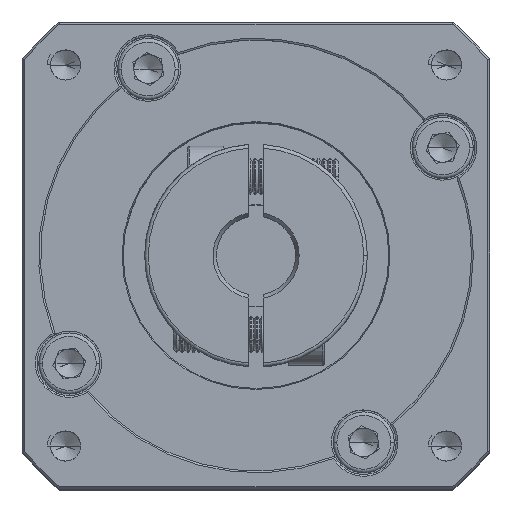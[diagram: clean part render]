
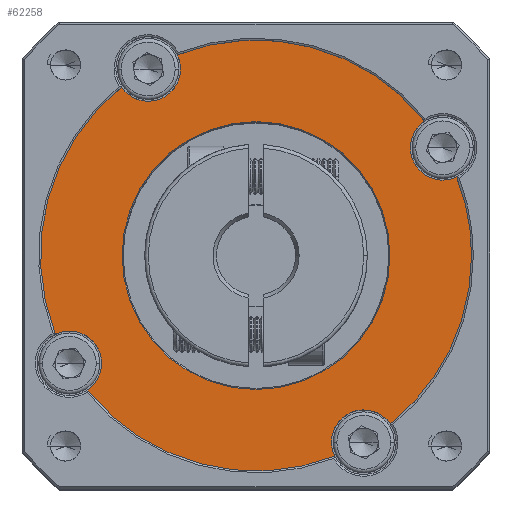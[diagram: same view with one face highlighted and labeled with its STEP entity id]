
A CAD part, top view. The second image highlights one B-rep face of the part: STEP entity #62258.
In plain terms, the highlighted planar face has unit normal (0, 0, 1).
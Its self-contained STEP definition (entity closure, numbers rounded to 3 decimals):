
#141 = CARTESIAN_POINT ( 'NONE',  ( -32.334, 12.2, -0.205 ) ) ;
#1130 = VERTEX_POINT ( 'NONE', #6700 ) ;
#1291 = ORIENTED_EDGE ( 'NONE', *, *, #113423, .F. ) ;
#1358 = AXIS2_PLACEMENT_3D ( 'NONE', #111763, #84504, #9108 ) ;
#2511 = VERTEX_POINT ( 'NONE', #102068 ) ;
#2918 = EDGE_CURVE ( 'NONE', #64163, #1130, #3141, .T. ) ;
#3051 = VERTEX_POINT ( 'NONE', #93017 ) ;
#3141 = CIRCLE ( 'NONE', #59046, 4.5 ) ;
#3813 = DIRECTION ( 'NONE',  ( 0., 0., 1. ) ) ;
#3837 = CARTESIAN_POINT ( 'NONE',  ( -42.834, 38.18, -0.205 ) ) ;
#4641 = CIRCLE ( 'NONE', #81432, 18.644 ) ;
#6616 = DIRECTION ( 'NONE',  ( 1., 0., 0. ) ) ;
#6700 = CARTESIAN_POINT ( 'NONE',  ( -31.889, 10.248, -0.205 ) ) ;
#7441 = DIRECTION ( 'NONE',  ( 0., 0., 1. ) ) ;
#7680 = EDGE_CURVE ( 'NONE', #69461, #64163, #58501, .T. ) ;
#7829 = DIRECTION ( 'NONE',  ( 1., 0., 0. ) ) ;
#8470 = EDGE_CURVE ( 'NONE', #69461, #88655, #79096, .T. ) ;
#9108 = DIRECTION ( 'NONE',  ( 1., 0., 0. ) ) ;
#9895 = CARTESIAN_POINT ( 'NONE',  ( -70.766, 27.235, -0.205 ) ) ;
#12480 = DIRECTION ( 'NONE',  ( 1., 0., 0. ) ) ;
#17422 = EDGE_LOOP ( 'NONE', ( #69667, #107070, #89139, #68537, #103107, #74871, #17817, #73151, #107312, #85484, #113534, #81048, #1291 ) ) ;
#17817 = ORIENTED_EDGE ( 'NONE', *, *, #31246, .F. ) ;
#18566 = VERTEX_POINT ( 'NONE', #97013 ) ;
#20014 = DIRECTION ( 'NONE',  ( 1., 0., 0. ) ) ;
#20057 = CIRCLE ( 'NONE', #105527, 4.5 ) ;
#20720 = AXIS2_PLACEMENT_3D ( 'NONE', #62539, #118627, #6616 ) ;
#21538 = VERTEX_POINT ( 'NONE', #79408 ) ;
#22806 = DIRECTION ( 'NONE',  ( 0., 0., 1. ) ) ;
#23193 = CIRCLE ( 'NONE', #28998, 4.5 ) ;
#26885 = EDGE_CURVE ( 'NONE', #88655, #67156, #52909, .T. ) ;
#27651 = VERTEX_POINT ( 'NONE', #9895 ) ;
#27757 = CIRCLE ( 'NONE', #36968, 30. ) ;
#28998 = AXIS2_PLACEMENT_3D ( 'NONE', #56634, #66369, #120449 ) ;
#29640 = VERTEX_POINT ( 'NONE', #84234 ) ;
#31246 = EDGE_CURVE ( 'NONE', #2511, #67156, #20057, .T. ) ;
#33101 = DIRECTION ( 'NONE',  ( 1., 0., 0. ) ) ;
#35120 = CIRCLE ( 'NONE', #53469, 4.5 ) ;
#36968 = AXIS2_PLACEMENT_3D ( 'NONE', #81082, #70943, #44103 ) ;
#38525 = VERTEX_POINT ( 'NONE', #59727 ) ;
#39039 = FACE_BOUND ( 'NONE', #97915, .T. ) ;
#40146 = EDGE_CURVE ( 'NONE', #77689, #3051, #42795, .T. ) ;
#40762 = AXIS2_PLACEMENT_3D ( 'NONE', #94521, #84769, #47373 ) ;
#41089 = EDGE_CURVE ( 'NONE', #18566, #27651, #27757, .T. ) ;
#41514 = CARTESIAN_POINT ( 'NONE',  ( -27.834, 12.2, -0.205 ) ) ;
#42468 = DIRECTION ( 'NONE',  ( 1., 0., 0. ) ) ;
#42795 = CIRCLE ( 'NONE', #40762, 18.644 ) ;
#43876 = CIRCLE ( 'NONE', #61410, 4.5 ) ;
#44103 = DIRECTION ( 'NONE',  ( 1., 0., 0. ) ) ;
#44536 = CARTESIAN_POINT ( 'NONE',  ( -12.834, 38.18, -0.205 ) ) ;
#46638 = DIRECTION ( 'NONE',  ( 0., 0., -1. ) ) ;
#47373 = DIRECTION ( 'NONE',  ( 1., 0., 0. ) ) ;
#48907 = EDGE_CURVE ( 'NONE', #38525, #68163, #110804, .T. ) ;
#50558 = DIRECTION ( 'NONE',  ( 1., 0., 0. ) ) ;
#51227 = DIRECTION ( 'NONE',  ( 0., 0., 1. ) ) ;
#52256 = CARTESIAN_POINT ( 'NONE',  ( -42.834, 38.18, -0.205 ) ) ;
#52909 = CIRCLE ( 'NONE', #59724, 30. ) ;
#53469 = AXIS2_PLACEMENT_3D ( 'NONE', #67646, #22806, #50558 ) ;
#56634 = CARTESIAN_POINT ( 'NONE',  ( -16.853, 53.18, -0.205 ) ) ;
#57137 = DIRECTION ( 'NONE',  ( 0., 0., 1. ) ) ;
#58501 = CIRCLE ( 'NONE', #112686, 4.5 ) ;
#59046 = AXIS2_PLACEMENT_3D ( 'NONE', #81620, #7441, #7829 ) ;
#59466 = CIRCLE ( 'NONE', #104560, 30. ) ;
#59724 = AXIS2_PLACEMENT_3D ( 'NONE', #94092, #57137, #20014 ) ;
#59727 = CARTESIAN_POINT ( 'NONE',  ( -53.334, 64.161, -0.205 ) ) ;
#61410 = AXIS2_PLACEMENT_3D ( 'NONE', #104512, #79684, #12480 ) ;
#62258 = ADVANCED_FACE ( 'NONE', ( #39039, #90046 ), #112179, .T. ) ;
#62539 = CARTESIAN_POINT ( 'NONE',  ( -42.834, 38.18, -0.205 ) ) ;
#64163 = VERTEX_POINT ( 'NONE', #141 ) ;
#64536 = CARTESIAN_POINT ( 'NONE',  ( -42.834, 38.18, -0.205 ) ) ;
#66369 = DIRECTION ( 'NONE',  ( 0., 0., 1. ) ) ;
#66493 = EDGE_CURVE ( 'NONE', #3051, #77689, #4641, .T. ) ;
#67095 = EDGE_CURVE ( 'NONE', #18566, #38525, #35120, .T. ) ;
#67156 = VERTEX_POINT ( 'NONE', #87162 ) ;
#67646 = CARTESIAN_POINT ( 'NONE',  ( -57.834, 64.161, -0.205 ) ) ;
#68163 = VERTEX_POINT ( 'NONE', #80642 ) ;
#68354 = AXIS2_PLACEMENT_3D ( 'NONE', #97913, #3813, #115804 ) ;
#68462 = CIRCLE ( 'NONE', #118398, 4.5 ) ;
#68537 = ORIENTED_EDGE ( 'NONE', *, *, #7680, .F. ) ;
#69461 = VERTEX_POINT ( 'NONE', #77504 ) ;
#69667 = ORIENTED_EDGE ( 'NONE', *, *, #84200, .F. ) ;
#69766 = DIRECTION ( 'NONE',  ( 0., 0., 1. ) ) ;
#70943 = DIRECTION ( 'NONE',  ( 0., 0., 1. ) ) ;
#72251 = DIRECTION ( 'NONE',  ( 1., 0., 0. ) ) ;
#72969 = ORIENTED_EDGE ( 'NONE', *, *, #66493, .T. ) ;
#73151 = ORIENTED_EDGE ( 'NONE', *, *, #115341, .F. ) ;
#74871 = ORIENTED_EDGE ( 'NONE', *, *, #26885, .T. ) ;
#75010 = CIRCLE ( 'NONE', #98640, 30. ) ;
#77504 = CARTESIAN_POINT ( 'NONE',  ( -24.117, 14.735, -0.205 ) ) ;
#77689 = VERTEX_POINT ( 'NONE', #104500 ) ;
#79096 = CIRCLE ( 'NONE', #20720, 30. ) ;
#79408 = CARTESIAN_POINT ( 'NONE',  ( -64.315, 23.18, -0.205 ) ) ;
#79684 = DIRECTION ( 'NONE',  ( 0., 0., 1. ) ) ;
#80642 = CARTESIAN_POINT ( 'NONE',  ( -53.779, 66.112, -0.205 ) ) ;
#81048 = ORIENTED_EDGE ( 'NONE', *, *, #41089, .T. ) ;
#81082 = CARTESIAN_POINT ( 'NONE',  ( -42.834, 38.18, -0.205 ) ) ;
#81360 = DIRECTION ( 'NONE',  ( 1., 0., 0. ) ) ;
#81432 = AXIS2_PLACEMENT_3D ( 'NONE', #64536, #46638, #93794 ) ;
#81620 = CARTESIAN_POINT ( 'NONE',  ( -27.834, 12.2, -0.205 ) ) ;
#84200 = EDGE_CURVE ( 'NONE', #112311, #21538, #68462, .T. ) ;
#84234 = CARTESIAN_POINT ( 'NONE',  ( -19.389, 56.898, -0.205 ) ) ;
#84504 = DIRECTION ( 'NONE',  ( 0., 0., 1. ) ) ;
#84769 = DIRECTION ( 'NONE',  ( 0., 0., -1. ) ) ;
#85484 = ORIENTED_EDGE ( 'NONE', *, *, #48907, .F. ) ;
#87162 = CARTESIAN_POINT ( 'NONE',  ( -14.902, 49.125, -0.205 ) ) ;
#88655 = VERTEX_POINT ( 'NONE', #44536 ) ;
#89139 = ORIENTED_EDGE ( 'NONE', *, *, #2918, .F. ) ;
#90046 = FACE_OUTER_BOUND ( 'NONE', #17422, .T. ) ;
#90212 = CARTESIAN_POINT ( 'NONE',  ( -66.279, 19.463, -0.205 ) ) ;
#91312 = EDGE_CURVE ( 'NONE', #112311, #1130, #59466, .T. ) ;
#93017 = CARTESIAN_POINT ( 'NONE',  ( -61.478, 38.18, -0.205 ) ) ;
#93794 = DIRECTION ( 'NONE',  ( 1., 0., 0. ) ) ;
#94092 = CARTESIAN_POINT ( 'NONE',  ( -42.834, 38.18, -0.205 ) ) ;
#94521 = CARTESIAN_POINT ( 'NONE',  ( -42.834, 38.18, -0.205 ) ) ;
#96838 = EDGE_CURVE ( 'NONE', #29640, #68163, #75010, .T. ) ;
#97013 = CARTESIAN_POINT ( 'NONE',  ( -61.551, 61.625, -0.205 ) ) ;
#97131 = DIRECTION ( 'NONE',  ( 1., 0., 0. ) ) ;
#97824 = DIRECTION ( 'NONE',  ( 0., 0., 1. ) ) ;
#97913 = CARTESIAN_POINT ( 'NONE',  ( -57.834, 64.161, -0.205 ) ) ;
#97915 = EDGE_LOOP ( 'NONE', ( #104957, #72969 ) ) ;
#98232 = CARTESIAN_POINT ( 'NONE',  ( -16.853, 53.18, -0.205 ) ) ;
#98640 = AXIS2_PLACEMENT_3D ( 'NONE', #3837, #51227, #97131 ) ;
#99898 = DIRECTION ( 'NONE',  ( 0., 0., 1. ) ) ;
#102068 = CARTESIAN_POINT ( 'NONE',  ( -21.353, 53.18, -0.205 ) ) ;
#103107 = ORIENTED_EDGE ( 'NONE', *, *, #8470, .T. ) ;
#104500 = CARTESIAN_POINT ( 'NONE',  ( -24.19, 38.18, -0.205 ) ) ;
#104512 = CARTESIAN_POINT ( 'NONE',  ( -68.815, 23.18, -0.205 ) ) ;
#104560 = AXIS2_PLACEMENT_3D ( 'NONE', #52256, #97824, #33101 ) ;
#104957 = ORIENTED_EDGE ( 'NONE', *, *, #40146, .T. ) ;
#105527 = AXIS2_PLACEMENT_3D ( 'NONE', #98232, #69766, #42468 ) ;
#107070 = ORIENTED_EDGE ( 'NONE', *, *, #91312, .T. ) ;
#107312 = ORIENTED_EDGE ( 'NONE', *, *, #96838, .T. ) ;
#109452 = DIRECTION ( 'NONE',  ( 0., 0., 1. ) ) ;
#110804 = CIRCLE ( 'NONE', #68354, 4.5 ) ;
#111763 = CARTESIAN_POINT ( 'NONE',  ( -42.834, 38.18, -0.205 ) ) ;
#112179 = PLANE ( 'NONE',  #1358 ) ;
#112311 = VERTEX_POINT ( 'NONE', #90212 ) ;
#112686 = AXIS2_PLACEMENT_3D ( 'NONE', #41514, #109452, #81360 ) ;
#113423 = EDGE_CURVE ( 'NONE', #21538, #27651, #43876, .T. ) ;
#113534 = ORIENTED_EDGE ( 'NONE', *, *, #67095, .F. ) ;
#115341 = EDGE_CURVE ( 'NONE', #29640, #2511, #23193, .T. ) ;
#115804 = DIRECTION ( 'NONE',  ( 1., 0., 0. ) ) ;
#117765 = CARTESIAN_POINT ( 'NONE',  ( -68.815, 23.18, -0.205 ) ) ;
#118398 = AXIS2_PLACEMENT_3D ( 'NONE', #117765, #99898, #72251 ) ;
#118627 = DIRECTION ( 'NONE',  ( 0., 0., 1. ) ) ;
#120449 = DIRECTION ( 'NONE',  ( 1., 0., 0. ) ) ;
